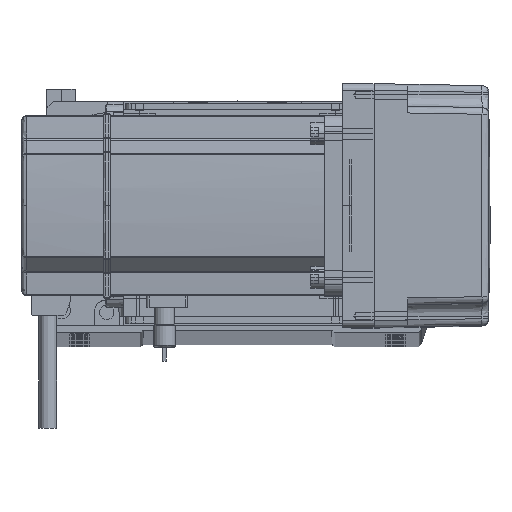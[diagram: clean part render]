
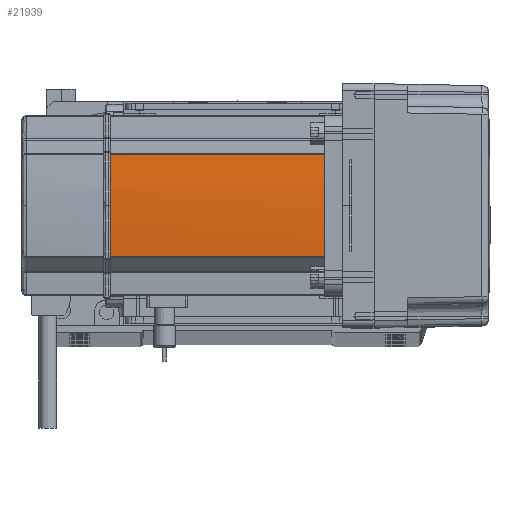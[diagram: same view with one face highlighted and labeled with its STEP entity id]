
A CAD part, top view. The second image highlights one B-rep face of the part: STEP entity #21939.
In plain terms, the highlighted cylindrical face has radius 270 mm (diameter 540 mm), a partial arc.
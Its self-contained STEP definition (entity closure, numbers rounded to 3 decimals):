
#998 = CARTESIAN_POINT ( 'NONE',  ( 230., 0., 134. ) ) ;
#2107 = DIRECTION ( 'NONE',  ( 0., 0., 1. ) ) ;
#4770 = CIRCLE ( 'NONE', #67739, 270. ) ;
#5829 = ORIENTED_EDGE ( 'NONE', *, *, #62170, .T. ) ;
#6573 = DIRECTION ( 'NONE',  ( 0., 0., -1. ) ) ;
#8616 = VECTOR ( 'NONE', #2107, 1000. ) ;
#8996 = FACE_OUTER_BOUND ( 'NONE', #24115, .T. ) ;
#9423 = CARTESIAN_POINT ( 'NONE',  ( -40., 0., 134. ) ) ;
#11353 = CIRCLE ( 'NONE', #52792, 270. ) ;
#11792 = CARTESIAN_POINT ( 'NONE',  ( 230., 0., 134. ) ) ;
#11832 = ORIENTED_EDGE ( 'NONE', *, *, #60395, .T. ) ;
#12273 = DIRECTION ( 'NONE',  ( 1., 0., 0. ) ) ;
#12317 = VERTEX_POINT ( 'NONE', #62426 ) ;
#12708 = CARTESIAN_POINT ( 'NONE',  ( 230., 0., 39. ) ) ;
#15576 = LINE ( 'NONE', #45574, #43677 ) ;
#16405 = DIRECTION ( 'NONE',  ( 0., 0., -1. ) ) ;
#20965 = ORIENTED_EDGE ( 'NONE', *, *, #53239, .F. ) ;
#21939 = ADVANCED_FACE ( 'NONE', ( #8996 ), #63315, .T. ) ;
#21982 = VERTEX_POINT ( 'NONE', #62847 ) ;
#23309 = CARTESIAN_POINT ( 'NONE',  ( -39.042, -22.724, 0. ) ) ;
#23772 = CARTESIAN_POINT ( 'NONE',  ( -39.042, -22.724, 39. ) ) ;
#23824 = ORIENTED_EDGE ( 'NONE', *, *, #25295, .T. ) ;
#24115 = EDGE_LOOP ( 'NONE', ( #54075, #5829, #11832, #20965, #23824 ) ) ;
#25295 = EDGE_CURVE ( 'NONE', #57871, #21982, #38316, .T. ) ;
#27267 = DIRECTION ( 'NONE',  ( 0., 0., -1. ) ) ;
#27287 = AXIS2_PLACEMENT_3D ( 'NONE', #12708, #6573, #12273 ) ;
#29560 = DIRECTION ( 'NONE',  ( 0., 0., 1. ) ) ;
#29666 = VERTEX_POINT ( 'NONE', #60049 ) ;
#33896 = EDGE_CURVE ( 'NONE', #21982, #46803, #11353, .T. ) ;
#37161 = CIRCLE ( 'NONE', #27287, 270. ) ;
#37873 = DIRECTION ( 'NONE',  ( 1., 0., 0. ) ) ;
#38316 = LINE ( 'NONE', #23309, #8616 ) ;
#43677 = VECTOR ( 'NONE', #66674, 1000. ) ;
#45574 = CARTESIAN_POINT ( 'NONE',  ( -39.042, 22.724, 0. ) ) ;
#45663 = CARTESIAN_POINT ( 'NONE',  ( 230., 0., 0. ) ) ;
#46803 = VERTEX_POINT ( 'NONE', #9423 ) ;
#51788 = AXIS2_PLACEMENT_3D ( 'NONE', #45663, #29560, #66765 ) ;
#52792 = AXIS2_PLACEMENT_3D ( 'NONE', #998, #16405, #37873 ) ;
#53239 = EDGE_CURVE ( 'NONE', #57871, #29666, #37161, .T. ) ;
#53256 = DIRECTION ( 'NONE',  ( 1., 0., 0. ) ) ;
#54075 = ORIENTED_EDGE ( 'NONE', *, *, #33896, .T. ) ;
#57871 = VERTEX_POINT ( 'NONE', #23772 ) ;
#60049 = CARTESIAN_POINT ( 'NONE',  ( -39.042, 22.724, 39. ) ) ;
#60395 = EDGE_CURVE ( 'NONE', #12317, #29666, #15576, .T. ) ;
#62170 = EDGE_CURVE ( 'NONE', #46803, #12317, #4770, .T. ) ;
#62426 = CARTESIAN_POINT ( 'NONE',  ( -39.042, 22.724, 134. ) ) ;
#62847 = CARTESIAN_POINT ( 'NONE',  ( -39.042, -22.724, 134. ) ) ;
#63315 = CYLINDRICAL_SURFACE ( 'NONE', #51788, 270. ) ;
#66674 = DIRECTION ( 'NONE',  ( 0., 0., -1. ) ) ;
#66765 = DIRECTION ( 'NONE',  ( 1., 0., 0. ) ) ;
#67739 = AXIS2_PLACEMENT_3D ( 'NONE', #11792, #27267, #53256 ) ;
